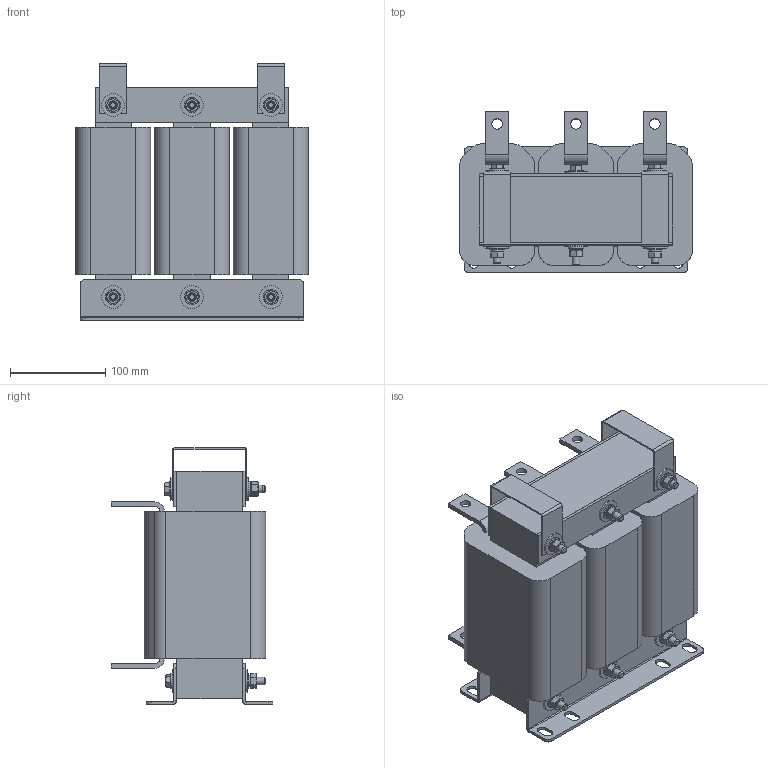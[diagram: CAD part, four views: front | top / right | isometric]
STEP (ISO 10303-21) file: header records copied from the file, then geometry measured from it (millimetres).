
FILE_DESCRIPTION(('STEP AP203'), '1');
FILE_NAME('Ñåòåâîé äðîññåëü _ ISF-200_383-4', '', ('UNSPECIFIED'), ('UNSPECIFIED'), 'C3D Converter', 'C3D Toolkit', '');
FILE_SCHEMA(('CONFIG_CONTROL_DESIGN'));
Length unit declared in the file: millimetre
Products named in the file (17): ISF-200_383-4; DIN 125 (A); ГОСТ 15591-70; DIN 127 (A); DIN 934
Assembly tree (63 placements, depth 3):
  ISF-200_383-4
    ISF-200_383-4
    ISF-200_383-4  x2
    ISF-200_383-4  x3
    ISF-200_383-4  x6
    ISF-200_383-4  x2
    (unnamed)  x12
      (unnamed)
    DIN 125 (A)  x12
      (unnamed)
    ГОСТ 15591-70  x6
      (unnamed)
    DIN 127 (A)  x6
      (unnamed)
    DIN 934  x6
      (unnamed)
    ISF-200_383-4  x2
Bounding box: 245 x 170 x 270 mm (x, y, z)
Volume: 5861158.1 mm3; surface area: 727855.2 mm2
Topology: 59 solids, 59 shells, 622 faces, 1344 edges, 846 vertices
Faces by surface type: plane 354, cylinder 166, cone 96, torus 6
Full cylindrical faces by diameter (mm): 6.647 x6, 8 x28, 8.4 x24, 11 x6, 16 x12, 24 x12
Entity records: 8155 total; most frequent: CARTESIAN_POINT 1693, DIRECTION 932, ORIENTED_EDGE 754, EDGE_CURVE 377, AXIS2_PLACEMENT_3D 352, VERTEX_POINT 255, EDGE_LOOP 250, LINE 228
